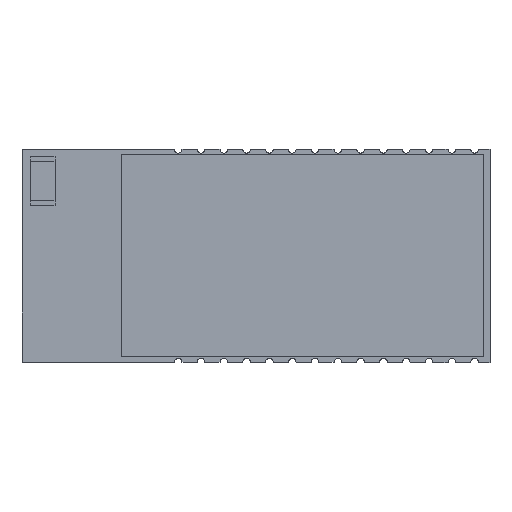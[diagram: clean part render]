
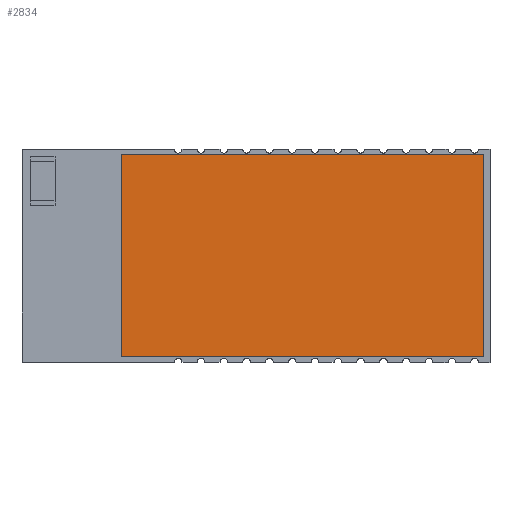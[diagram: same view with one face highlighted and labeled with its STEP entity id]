
A CAD part, top view. The second image highlights one B-rep face of the part: STEP entity #2834.
In plain terms, the highlighted planar face has unit normal (0, 0, 1).
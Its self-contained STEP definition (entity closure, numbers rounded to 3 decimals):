
#2762 = VERTEX_POINT('',#2763);
#2763 = CARTESIAN_POINT('',(23.82,13.32,1.5));
#2769 = EDGE_CURVE('',#2770,#2762,#2772,.T.);
#2770 = VERTEX_POINT('',#2771);
#2771 = CARTESIAN_POINT('',(23.82,0.,1.5));
#2772 = LINE('',#2773,#2774);
#2773 = CARTESIAN_POINT('',(23.82,0.,1.5));
#2774 = VECTOR('',#2775,1.);
#2775 = DIRECTION('',(0.,1.,0.));
#2834 = ADVANCED_FACE('',(#2835),#2860,.T.);
#2835 = FACE_BOUND('',#2836,.T.);
#2836 = EDGE_LOOP('',(#2837,#2845,#2846,#2854));
#2837 = ORIENTED_EDGE('',*,*,#2838,.T.);
#2838 = EDGE_CURVE('',#2839,#2770,#2841,.T.);
#2839 = VERTEX_POINT('',#2840);
#2840 = CARTESIAN_POINT('',(0.,0.,1.5));
#2841 = LINE('',#2842,#2843);
#2842 = CARTESIAN_POINT('',(0.,0.,1.5));
#2843 = VECTOR('',#2844,1.);
#2844 = DIRECTION('',(1.,0.,0.));
#2845 = ORIENTED_EDGE('',*,*,#2769,.T.);
#2846 = ORIENTED_EDGE('',*,*,#2847,.F.);
#2847 = EDGE_CURVE('',#2848,#2762,#2850,.T.);
#2848 = VERTEX_POINT('',#2849);
#2849 = CARTESIAN_POINT('',(0.,13.32,1.5));
#2850 = LINE('',#2851,#2852);
#2851 = CARTESIAN_POINT('',(0.,13.32,1.5));
#2852 = VECTOR('',#2853,1.);
#2853 = DIRECTION('',(1.,0.,0.));
#2854 = ORIENTED_EDGE('',*,*,#2855,.F.);
#2855 = EDGE_CURVE('',#2839,#2848,#2856,.T.);
#2856 = LINE('',#2857,#2858);
#2857 = CARTESIAN_POINT('',(0.,0.,1.5));
#2858 = VECTOR('',#2859,1.);
#2859 = DIRECTION('',(0.,1.,0.));
#2860 = PLANE('',#2861);
#2861 = AXIS2_PLACEMENT_3D('',#2862,#2863,#2864);
#2862 = CARTESIAN_POINT('',(11.91,6.66,1.5));
#2863 = DIRECTION('',(0.,0.,1.));
#2864 = DIRECTION('',(1.,0.,0.));
